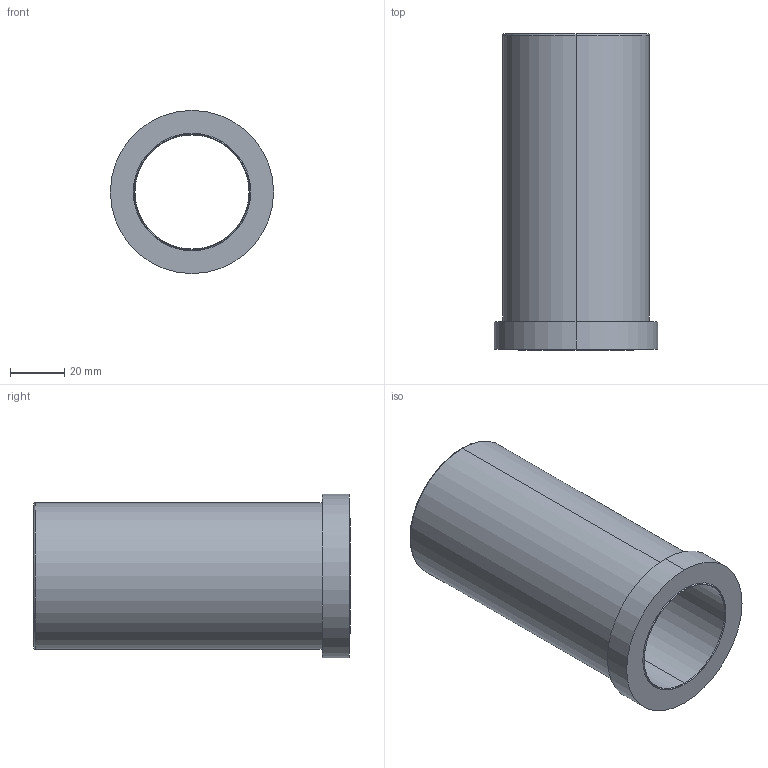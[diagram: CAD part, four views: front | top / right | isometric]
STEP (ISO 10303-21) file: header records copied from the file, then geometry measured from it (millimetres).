
FILE_DESCRIPTION (( 'STEP AP214' ), '1' );
FILE_NAME ('BR11W 42 x 116.STEP', '2020-07-16T11:32:44', ( 'August' ), ( '' ), 'SwSTEP 2.0', 'SolidWorks 2018', '' );
FILE_SCHEMA (( 'AUTOMOTIVE_DESIGN' ));
Length unit declared in the file: millimetre
Products named in the file (1): BR11W 42 x 116
Bounding box: 60 x 116.36 x 60 mm (x, y, z)
Volume: 110315.2 mm3; surface area: 38028.1 mm2
Topology: 1 solids, 1 shells, 17 faces, 34 edges, 20 vertices
Faces by surface type: cone 6, cylinder 6, plane 3, torus 2
Entity records: 484 total; most frequent: DIRECTION 92, CARTESIAN_POINT 72, ORIENTED_EDGE 68, AXIS2_PLACEMENT_3D 40, EDGE_CURVE 34, CIRCLE 22, VERTEX_POINT 20, EDGE_LOOP 20
